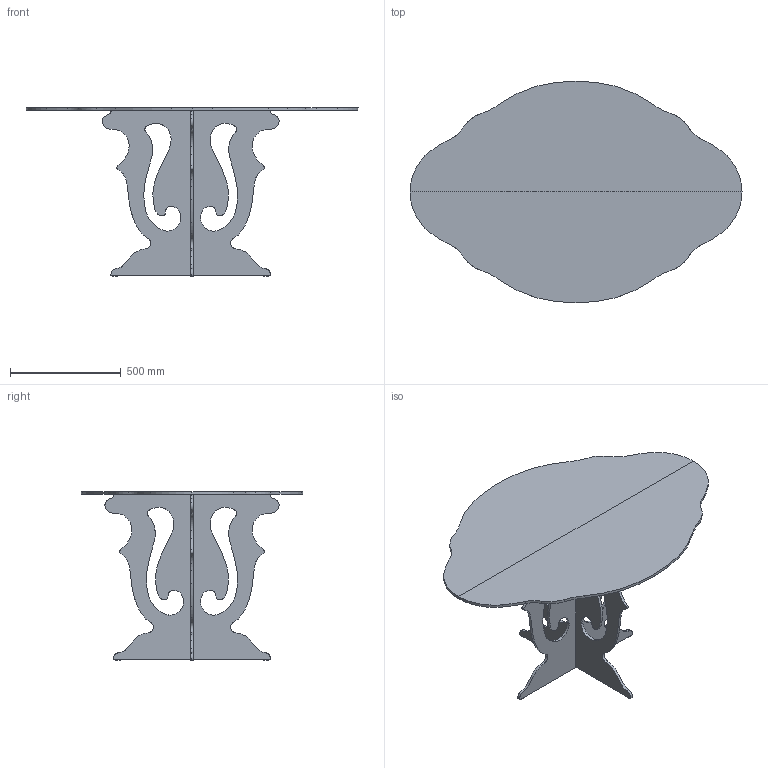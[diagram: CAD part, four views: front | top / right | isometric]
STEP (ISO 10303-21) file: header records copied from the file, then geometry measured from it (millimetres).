
FILE_DESCRIPTION(/* description */ (''),/* implementation_level */ '2;1');
FILE_NAME(/* name */ 'VENICE_table_SAG150x100',/* time_stamp */ '2015-09-16T10:48:49+02:00',/* author */ (''),/* organization */ (''),/* preprocessor_version */ 'ST-DEVELOPER v10',/* originating_system */ '',/* authorisation */ '');
FILE_SCHEMA (('CONFIG_CONTROL_DESIGN'));
Length unit declared in the file: millimetre
Products named in the file (1): 1
Bounding box: 1499.55 x 1000 x 763 mm (x, y, z)
Volume: 21175387.5 mm3; surface area: 3742064.6 mm2
Topology: 12 solids, 12 shells, 318 faces, 846 edges, 552 vertices
Faces by surface type: bspline 264, plane 54
Entity records: 10873 total; most frequent: CARTESIAN_POINT 6168, ORIENTED_EDGE 1692, EDGE_CURVE 846, VERTEX_POINT 552, B_SPLINE_CURVE_WITH_KNOTS 353, EDGE_LOOP 326, ADVANCED_FACE 318, FACE_OUTER_BOUND 318
